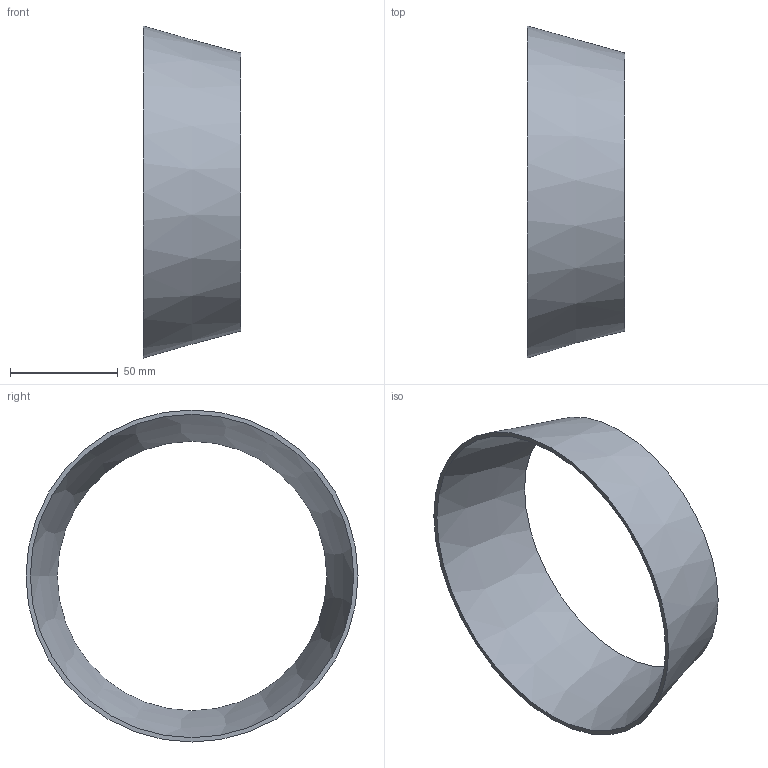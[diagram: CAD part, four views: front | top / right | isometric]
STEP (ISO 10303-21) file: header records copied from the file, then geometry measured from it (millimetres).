
FILE_DESCRIPTION(('FreeCAD Model'),'2;1');
FILE_NAME( '/home/martin/Documents/proyect/accesorios/stp/red-con_DN150-125.step' ,'2017-12-31T12:24:16',('Author'),(''), 'Open CASCADE STEP processor 6.8','FreeCAD','Unknown');
FILE_SCHEMA(('AUTOMOTIVE_DESIGN_CC2 { 1 2 10303 214 -1 1 5 4 }'));
Length unit declared in the file: millimetre
Products named in the file (1): red-con_DN150-125
Bounding box: 45 x 154 x 154 mm (x, y, z)
Volume: 39442.7 mm3; surface area: 42689.1 mm2
Topology: 1 solids, 1 shells, 4 faces, 6 edges, 4 vertices
Faces by surface type: cone 2, plane 2
Entity records: 191 total; most frequent: CARTESIAN_POINT 33, DIRECTION 26, ORIENTED_EDGE 12, PCURVE 12, DEFINITIONAL_REPRESENTATION 12, AXIS2_PLACEMENT_3D 9, CIRCLE 8, FACE_BOUND 6
